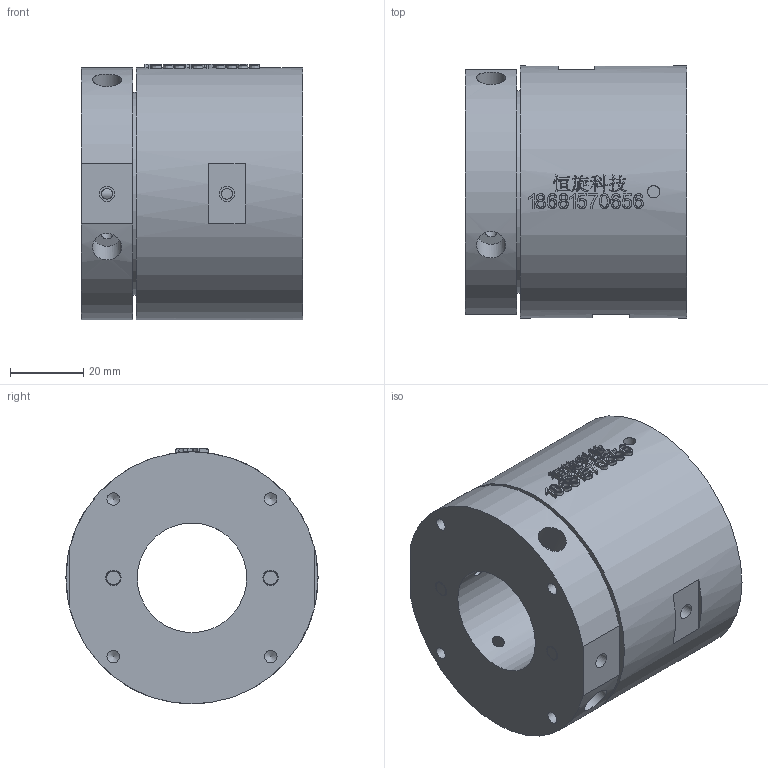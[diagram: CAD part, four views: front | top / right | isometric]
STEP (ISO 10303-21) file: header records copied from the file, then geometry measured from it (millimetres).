
FILE_DESCRIPTION(/* description */ (''),/* implementation_level */ '2;1');
FILE_NAME(/* name */ 'HQ02005-D30.dwg.stp',/* time_stamp */ '2024-12-13T19:01:41+08:00',/* author */ (''),/* organization */ (''),/* preprocessor_version */ 'ST-DEVELOPER v16.7',/* originating_system */ 'SIEMENS PLM Software NX 12.0',/* authorisation */ '');
FILE_SCHEMA (('AUTOMOTIVE_DESIGN { 1 0 10303 214 3 1 1 1 }'));
Length unit declared in the file: millimetre
Products named in the file (1): HX051A9C7FE4eti9
Bounding box: 60.5 x 69 x 70 mm (x, y, z)
Volume: 173399.4 mm3; surface area: 33305 mm2
Topology: 1 solids, 1 shells, 389 faces, 984 edges, 658 vertices
Faces by surface type: plane 217, extrusion 69, cylinder 64, bspline 26, cone 13
Full cylindrical faces by diameter (mm): 2 x2, 3 x4, 3.4 x16, 4.1 x2, 4.2 x6, 8 x4, 30 x1, 43 x1, 45 x1, 55.5 x1, 58 x1, 69 x1
Entity records: 22119 total; most frequent: CARTESIAN_POINT 13951, ORIENTED_EDGE 1790, DIRECTION 1255, EDGE_CURVE 895, VERTEX_POINT 644, B_SPLINE_CURVE_WITH_KNOTS 600, EDGE_LOOP 529, AXIS2_PLACEMENT_3D 527
